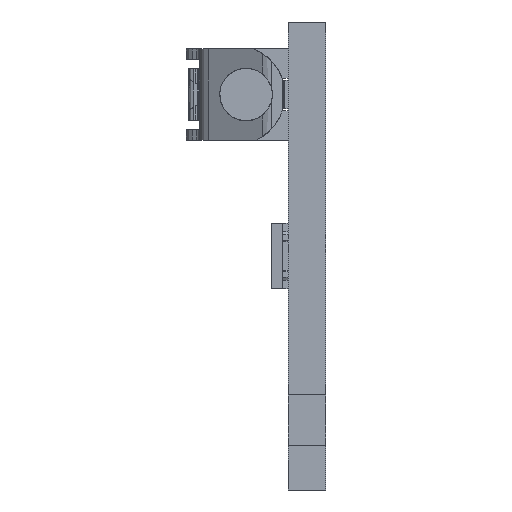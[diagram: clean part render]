
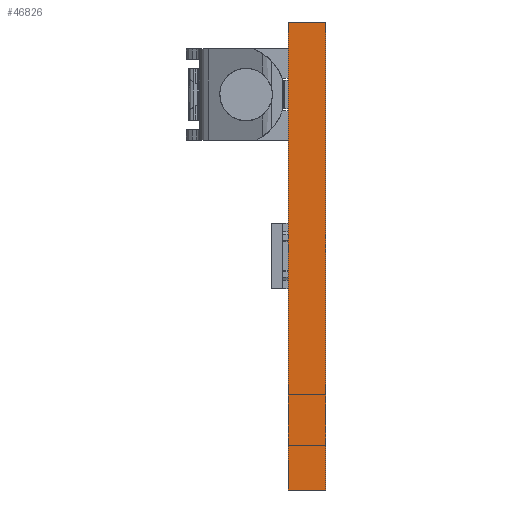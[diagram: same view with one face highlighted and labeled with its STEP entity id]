
A CAD part, left-side view. The second image highlights one B-rep face of the part: STEP entity #46826.
In plain terms, the highlighted planar face has unit normal (-1, 0, 0).
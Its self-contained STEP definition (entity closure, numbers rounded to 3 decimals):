
#492=DIRECTION('',(0.,0.,-1.));
#493=VECTOR('',#492,20.);
#494=CARTESIAN_POINT('',(-282.2,0.,15.9));
#495=LINE('',#494,#493);
#1752=DIRECTION('',(0.,0.,-1.));
#1753=VECTOR('',#1752,20.);
#1754=CARTESIAN_POINT('',(-282.2,-1.6,15.9));
#1755=LINE('',#1754,#1753);
#1756=DIRECTION('',(0.,1.,0.));
#1757=VECTOR('',#1756,1.6);
#1758=CARTESIAN_POINT('',(-282.2,-1.6,-4.1));
#1759=LINE('',#1758,#1757);
#1764=DIRECTION('',(0.,1.,0.));
#1765=VECTOR('',#1764,1.6);
#1766=CARTESIAN_POINT('',(-282.2,-1.6,15.9));
#1767=LINE('',#1766,#1765);
#31498=CARTESIAN_POINT('',(-282.2,0.,15.9));
#31499=VERTEX_POINT('',#31498);
#31500=CARTESIAN_POINT('',(-282.2,0.,-4.1));
#31501=VERTEX_POINT('',#31500);
#40338=CARTESIAN_POINT('',(-282.2,-1.6,-4.1));
#40339=VERTEX_POINT('',#40338);
#40340=CARTESIAN_POINT('',(-282.2,-1.6,15.9));
#40341=VERTEX_POINT('',#40340);
#46814=CARTESIAN_POINT('',(-282.2,0.,-4.1));
#46815=DIRECTION('',(-1.,0.,0.));
#46816=DIRECTION('',(0.,0.,1.));
#46817=AXIS2_PLACEMENT_3D('',#46814,#46815,#46816);
#46818=PLANE('',#46817);
#46819=ORIENTED_EDGE('',*,*,#40966,.F.);
#46821=ORIENTED_EDGE('',*,*,#46820,.F.);
#46822=ORIENTED_EDGE('',*,*,#46426,.T.);
#46823=ORIENTED_EDGE('',*,*,#46800,.T.);
#46824=EDGE_LOOP('',(#46819,#46821,#46822,#46823));
#46825=FACE_OUTER_BOUND('',#46824,.F.);
#40966=EDGE_CURVE('',#31499,#31501,#495,.T.);
#46426=EDGE_CURVE('',#40341,#40339,#1755,.T.);
#46800=EDGE_CURVE('',#40339,#31501,#1759,.T.);
#46820=EDGE_CURVE('',#40341,#31499,#1767,.T.);
#46826=ADVANCED_FACE('',(#46825),#46818,.T.);
